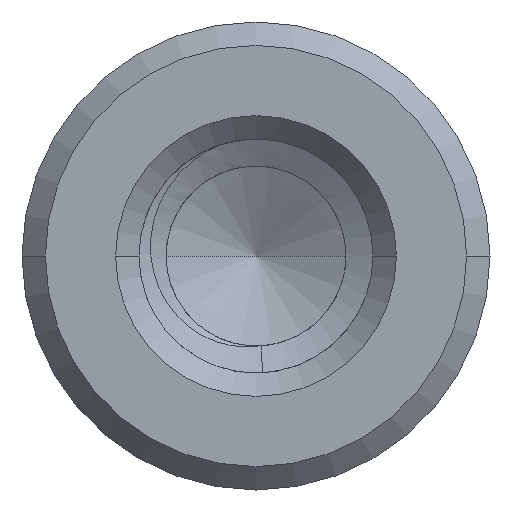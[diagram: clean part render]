
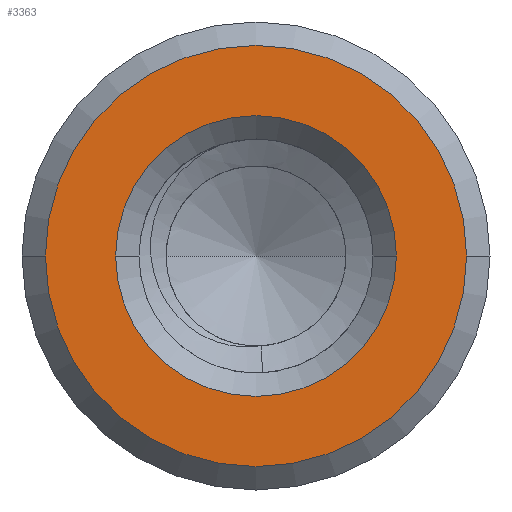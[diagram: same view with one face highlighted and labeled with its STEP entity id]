
A CAD part, front view. The second image highlights one B-rep face of the part: STEP entity #3363.
In plain terms, the highlighted planar face has unit normal (0, -1, 0).
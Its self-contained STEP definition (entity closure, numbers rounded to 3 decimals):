
#1=CARTESIAN_POINT('',(0.,-19.,0.));
#2=DIRECTION('',(0.,1.,0.));
#3=DIRECTION('',(-1.,0.,0.));
#4=AXIS2_PLACEMENT_3D('',#1,#2,#3);
#6=CARTESIAN_POINT('',(0.,-19.,0.));
#7=DIRECTION('',(0.,1.,0.));
#8=DIRECTION('',(1.,0.,0.));
#9=AXIS2_PLACEMENT_3D('',#6,#7,#8);
#11=CARTESIAN_POINT('',(0.,-19.,0.));
#12=DIRECTION('',(0.,-1.,0.));
#13=DIRECTION('',(1.,0.,0.));
#14=AXIS2_PLACEMENT_3D('',#11,#12,#13);
#16=CARTESIAN_POINT('',(0.,-19.,0.));
#17=DIRECTION('',(0.,-1.,0.));
#18=DIRECTION('',(-1.,0.,0.));
#19=AXIS2_PLACEMENT_3D('',#16,#17,#18);
#3322=CARTESIAN_POINT('',(-1.8,-19.,0.));
#3323=CARTESIAN_POINT('',(1.8,-19.,0.));
#3324=VERTEX_POINT('',#3322);
#3325=VERTEX_POINT('',#3323);
#3330=CARTESIAN_POINT('',(2.7,-19.,0.));
#3331=CARTESIAN_POINT('',(-2.7,-19.,0.));
#3332=VERTEX_POINT('',#3330);
#3333=VERTEX_POINT('',#3331);
#3346=CARTESIAN_POINT('',(0.,-19.,0.));
#3347=DIRECTION('',(0.,1.,0.));
#3348=DIRECTION('',(1.,0.,0.));
#3349=AXIS2_PLACEMENT_3D('',#3346,#3347,#3348);
#3350=PLANE('',#3349);
#3352=ORIENTED_EDGE('',*,*,#3351,.F.);
#3354=ORIENTED_EDGE('',*,*,#3353,.F.);
#3355=EDGE_LOOP('',(#3352,#3354));
#3356=FACE_OUTER_BOUND('',#3355,.F.);
#3358=ORIENTED_EDGE('',*,*,#3357,.F.);
#3360=ORIENTED_EDGE('',*,*,#3359,.F.);
#3361=EDGE_LOOP('',(#3358,#3360));
#3362=FACE_BOUND('',#3361,.F.);
#3363=ADVANCED_FACE('',(#3356,#3362),#3350,.F.);
#5=CIRCLE('',#4,1.8);
#10=CIRCLE('',#9,1.8);
#15=CIRCLE('',#14,2.7);
#20=CIRCLE('',#19,2.7);
#3351=EDGE_CURVE('',#3332,#3333,#15,.T.);
#3353=EDGE_CURVE('',#3333,#3332,#20,.T.);
#3357=EDGE_CURVE('',#3324,#3325,#5,.T.);
#3359=EDGE_CURVE('',#3325,#3324,#10,.T.);
